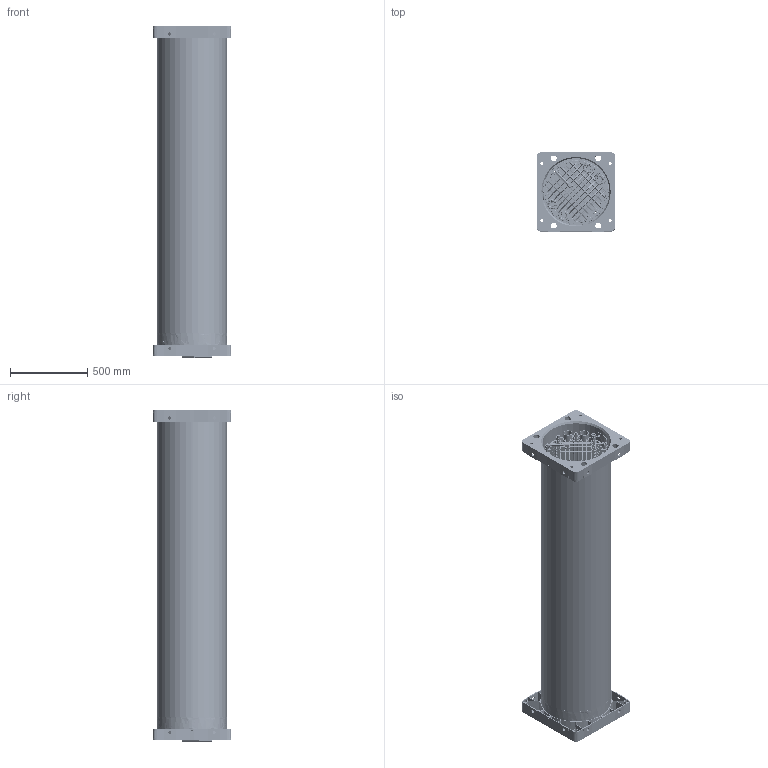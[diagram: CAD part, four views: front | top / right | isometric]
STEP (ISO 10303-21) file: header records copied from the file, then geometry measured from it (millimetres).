
FILE_DESCRIPTION (( 'STEP AP214' ), '1' );
FILE_NAME ('CDIT30-2 FINAL RB.STEP', '2013-05-07T21:32:16', ( 'Siemens WT' ), ( 'Siemens WT' ), 'SwSTEP 2.0', 'SolidWorks 2012', '' );
FILE_SCHEMA (( 'AUTOMOTIVE_DESIGN' ));
Length unit declared in the file: inch
Products named in the file (184): 89 CP CDIT STACK B; VNX-55 50 Cell Stack; Blank Spacer Dummy; Electrode Spacer Dummy; Dilute Spacer Dummy; Conc Spacer Dummy; W2T552672; Part1^VNX 45 CP stack with mo; R2459R1; Interconnect Bracket Assembly; Interconnect Bracket; Cathode Conduit; Middle Conduit; VNX 25-2 J BOX ASSY; PVC PLUG_4452K143; Pan Cross Head_AI_PreviewCfg; Top Anode Wire; Top Cathode Wire; Bottom Ground Wire; Top Ground; 12awg ring terminal; Din Rail 50-2; Din Rail; Siemens Barrier; Siemens Terminal Ground 6.5 mm; Siemens Terminal Block_Green Ground Side; Siemens Terminal Block_Yellow Ground Side; Siemens Terminal Block_Red 6.5 mm; Siemens Terminal Block_Black 6.5 mm; Siemens End Cap; SM16MA-BK; Junction Box; 91292A108_91292A108; new interconnect; Junction Box Bracket B_Junction Bracket 1; Junction Box Bracket A_Junction Bracket 1; R2395R1; CDIT TB ASSY_VNX55 GEN 2; R2290R1; 92196A626_92196A626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
Assembly tree (273 placements, depth 6):
  CDIT30-2 FINAL RB
    Housing and sticker 075
      NX0029C  x2
      R2149R1
      CDIT LABEL 075 LETTERS
    89 CP CDIT STACK R2
      R2394R1  x2
        R2262R21
        O-ring 104 deformed
        R2393R1
        R2287R1
        O-ring 211 compressed
        O-ring 214 compressed
        R2288R1
      R2392R1
        R2388R1
        R2152R1
      CDIT TB ASSY  x10
        R2289R1
        M18 HEX NUT
        M18 FLAT WASHER
      HS01-0006 LATEST
        SOCKET SHELL (R16 PLATE)
        12 AWG WIRE RED
          12 AWG WIRE INSULATION RED
          12 AWG CONDUCTOR
        YSK035-011
          YRT035-015
          YFE035-001
          YFR035-010
        o-rings ai_PreviewCfg
        Anode Conduit
        15mm O-RING
        Sealcon-ED16MN-BK
        PLATE FACE GASKET
        pan cross head_am_B18.6.7M - M4 x 0.7 x 13 Type I Cross Recessed PHMS --13N  x2
      HS01-0004 LATEST
        SOCKET SHELL (R16 PLATE)
        YSK035-011
          YRT035-015
          YFE035-001
          YFR035-010
        o-rings ai_PreviewCfg
        Anode Conduit
        pan cross head_am_PreviewCfg  x2
        15mm O-RING
        PLATE FACE GASKET
        Sealcon-EM16MA-BK_Model Type_EM - Elbow_Thread Type and Size(Elbow)_M16 x 1.5_
      Far Conduit
      R2461R1  x4
      CDIT 89 CP Dummy Stack
      R3321R10  x2
    Vertical Support Bracket Assembly  x2
      Vertical Support Bracket Test
      Nut and Washer Assembly
        M18 HEX NUT
        M18 FLAT WASHER
    92196A626_92196A626  x2
    89 CP CDIT STACK B
      R2394R1  x2
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Bounding box: 508 x 508 x 2142.62 mm (x, y, z)
Volume: 171415704.9 mm3; surface area: 51363480.6 mm2
Topology: 407 solids, 411 shells, 22954 faces, 54899 edges, 33565 vertices
Faces by surface type: cylinder 6817, plane 6041, cone 4273, torus 3137, sphere 1484, bspline 1202
Full cylindrical faces by diameter (mm): 0.8 x4, 2.362 x10, 2.85 x4, 3 x6, 3.048 x11, 3.175 x2, 3.2 x8, 3.302 x8, 3.327 x4, 3.441 x10, 3.81 x2, 3.999 x2, 4 x30, 4.1 x4, 4.166 x4, 4.34 x4, 4.402 x8, 4.425 x2, 4.5 x8, 4.599 x4, 4.699 x8, 4.7 x8, 5 x4, 5.08 x4, 5.35 x8, 5.93 x8, 5.94 x8, 6 x4, 6.096 x6, 6.55 x12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
Entity records: 308437 total; most frequent: CARTESIAN_POINT 114937, DIRECTION 38180, ORIENTED_EDGE 32920, EDGE_CURVE 16460, AXIS2_PLACEMENT_3D 16431, EDGE_LOOP 14467, VERTEX_POINT 11851, FACE_OUTER_BOUND 10175
